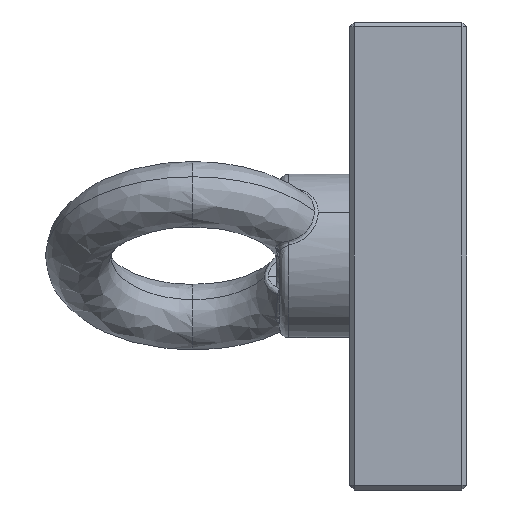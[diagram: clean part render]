
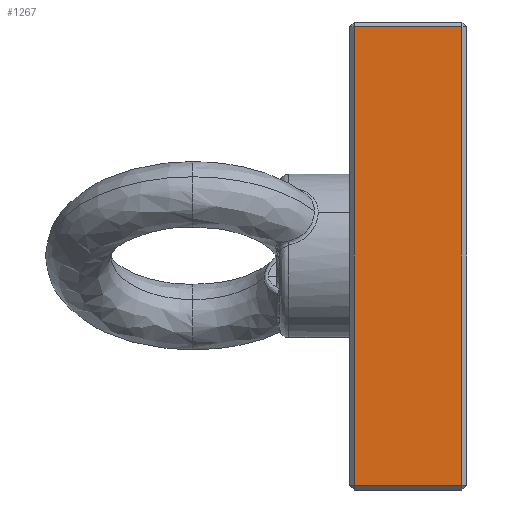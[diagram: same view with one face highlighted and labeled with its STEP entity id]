
A CAD part, left-side view. The second image highlights one B-rep face of the part: STEP entity #1267.
In plain terms, the highlighted planar face has unit normal (-1, 0, 0).
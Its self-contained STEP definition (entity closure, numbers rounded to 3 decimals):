
#58 = DIRECTION ( 'NONE',  ( 0., 1., 0. ) ) ;
#81 = DIRECTION ( 'NONE',  ( 0., 0., 1. ) ) ;
#236 = EDGE_CURVE ( 'NONE', #2450, #2426, #4458, .T. ) ;
#324 = CARTESIAN_POINT ( 'NONE',  ( -75., 24., 50. ) ) ;
#330 = LINE ( 'NONE', #324, #4798 ) ;
#434 = AXIS2_PLACEMENT_3D ( 'NONE', #2682, #1053, #3910 ) ;
#509 = FACE_OUTER_BOUND ( 'NONE', #3155, .T. ) ;
#515 = VECTOR ( 'NONE', #1786, 1000. ) ;
#1047 = VECTOR ( 'NONE', #58, 1000. ) ;
#1053 = DIRECTION ( 'NONE',  ( 1., 0., 0. ) ) ;
#1267 = ADVANCED_FACE ( 'NONE', ( #509 ), #3892, .F. ) ;
#1268 = VERTEX_POINT ( 'NONE', #1858 ) ;
#1786 = DIRECTION ( 'NONE',  ( 0., -1., 0. ) ) ;
#1858 = CARTESIAN_POINT ( 'NONE',  ( -75., 24., 49. ) ) ;
#1944 = ORIENTED_EDGE ( 'NONE', *, *, #4434, .T. ) ;
#2345 = LINE ( 'NONE', #2535, #4488 ) ;
#2426 = VERTEX_POINT ( 'NONE', #3851 ) ;
#2450 = VERTEX_POINT ( 'NONE', #5107 ) ;
#2500 = VERTEX_POINT ( 'NONE', #4701 ) ;
#2535 = CARTESIAN_POINT ( 'NONE',  ( -75., 1., 50. ) ) ;
#2682 = CARTESIAN_POINT ( 'NONE',  ( -75., 25., 50. ) ) ;
#3142 = EDGE_CURVE ( 'NONE', #2426, #2500, #2345, .T. ) ;
#3155 = EDGE_LOOP ( 'NONE', ( #4075, #3468, #1944, #4795 ) ) ;
#3219 = LINE ( 'NONE', #3308, #1047 ) ;
#3308 = CARTESIAN_POINT ( 'NONE',  ( -75., 25., 49. ) ) ;
#3468 = ORIENTED_EDGE ( 'NONE', *, *, #3142, .T. ) ;
#3851 = CARTESIAN_POINT ( 'NONE',  ( -75., 1., -49. ) ) ;
#3892 = PLANE ( 'NONE',  #434 ) ;
#3910 = DIRECTION ( 'NONE',  ( 0., 0., -1. ) ) ;
#4075 = ORIENTED_EDGE ( 'NONE', *, *, #236, .T. ) ;
#4434 = EDGE_CURVE ( 'NONE', #2500, #1268, #3219, .T. ) ;
#4458 = LINE ( 'NONE', #4639, #515 ) ;
#4488 = VECTOR ( 'NONE', #81, 1000. ) ;
#4639 = CARTESIAN_POINT ( 'NONE',  ( -75., 25., -49. ) ) ;
#4701 = CARTESIAN_POINT ( 'NONE',  ( -75., 1., 49. ) ) ;
#4795 = ORIENTED_EDGE ( 'NONE', *, *, #5155, .T. ) ;
#4798 = VECTOR ( 'NONE', #5226, 1000. ) ;
#5107 = CARTESIAN_POINT ( 'NONE',  ( -75., 24., -49. ) ) ;
#5155 = EDGE_CURVE ( 'NONE', #1268, #2450, #330, .T. ) ;
#5226 = DIRECTION ( 'NONE',  ( 0., 0., -1. ) ) ;
